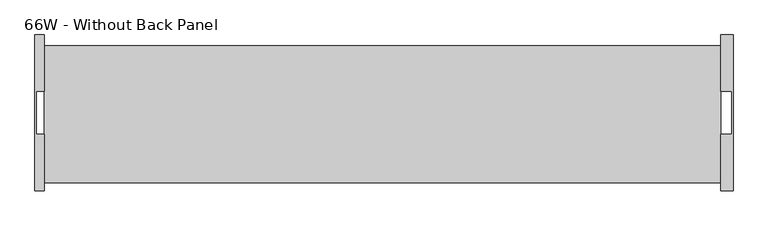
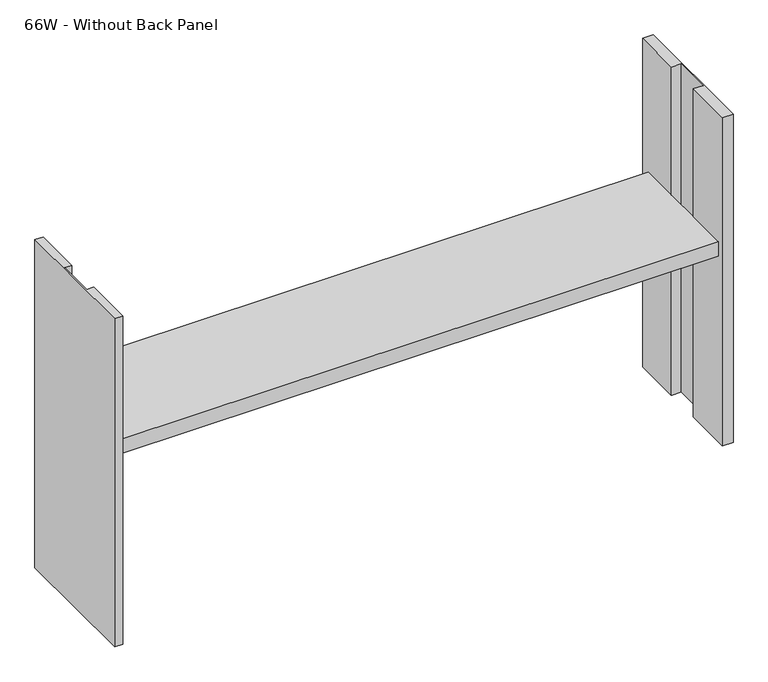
"""IFC4 building model written with IfcOpenShell, lengths in millimetres: furniture geometry, Steelcase - Kick Freestanding - Overhead Storage Cabinet With Shelves : 66W - Without Back Panel."""

import ifcopenshell
import ifcopenshell.guid

model = None  # the IFC model being written
_history = None  # IfcOwnerHistory: only IFC2X3 demands one
_inside = {}  # id of a spatial element -> (the spatial element, [elements in it])
_under = {}  # id of a project, library or spatial element -> (it, [spatial elements below it])
_declared = {}  # id of a project -> (the project, [libraries it declares])
_typed = {}  # id of a type object -> (the type object, [elements of that type])
_made_of = {}  # id of a material, layer set ... -> (it, [elements and type objects made of it])


def new_model(schema):
    """Start an empty IFC model of exactly this schema.

    Asked for "IFC4X3", IfcOpenShell would pick the latest addendum, in which some entities
    have other attributes; the version numbers below select the first issue.
    IFC2X3 requires an IfcOwnerHistory on every rooted entity: one is made here for all.
    """
    global model, _history
    if schema == "IFC4X3":
        model = ifcopenshell.file(schema_version=(4, 3, 0, 0))
    else:
        model = ifcopenshell.file(schema=schema)
    _inside.clear()
    _under.clear()
    _declared.clear()
    _typed.clear()
    _made_of.clear()
    _history = None
    if model.schema == "IFC2X3":
        org = make("IfcOrganization", Name="unknown")
        user = make(
            "IfcPersonAndOrganization",
            ThePerson=make("IfcPerson", FamilyName="unknown"),
            TheOrganization=org,
        )
        app = make(
            "IfcApplication",
            ApplicationDeveloper=org,
            Version="unknown",
            ApplicationFullName="unknown",
            ApplicationIdentifier="unknown",
        )
        _history = make(
            "IfcOwnerHistory",
            OwningUser=user,
            OwningApplication=app,
            ChangeAction="ADDED",
            CreationDate=0,
        )
    return model


def make(cls, **values):
    """One entity of the class cls with the attributes given. An attribute that is None is left unset."""
    return model.create_entity(
        cls, **{name: value for name, value in values.items() if value is not None}
    )


def rooted(cls, **values):
    """An entity with a GlobalId (a new one), such as an element, a storey or a relation."""
    return make(cls, GlobalId=ifcopenshell.guid.new(), OwnerHistory=_history, **values)


def si_unit(unit_type, name, prefix=None):
    """IfcSIUnit, for example si_unit("LENGTHUNIT", "METRE", prefix="MILLI")."""
    return make("IfcSIUnit", UnitType=unit_type, Prefix=prefix, Name=name)


def assignment(units):
    """IfcUnitAssignment: the units of a project."""
    return None if units is None else make("IfcUnitAssignment", Units=units)


def point(xyz):
    """IfcCartesianPoint."""
    return None if xyz is None else make("IfcCartesianPoint", Coordinates=xyz)


def direction(xyz):
    """IfcDirection."""
    return None if xyz is None else make("IfcDirection", DirectionRatios=xyz)


def frame(location, z_axis=None, x_axis=None):
    """IfcAxis2Placement3D, a coordinate frame: its origin and axes. An axis left out is left unset."""
    return make(
        "IfcAxis2Placement3D",
        Location=point(location),
        Axis=direction(z_axis),
        RefDirection=direction(x_axis),
    )


def origin():
    """The frame at (0, 0, 0) with its axes left unset."""
    return frame((0.0, 0.0, 0.0))


def place(relative_to, where):
    """IfcLocalPlacement: puts the frame where relative to a parent placement (None: the world)."""
    return make(
        "IfcLocalPlacement", PlacementRelTo=relative_to, RelativePlacement=where
    )


def context(
    kind, dimensions, precision=None, world=None, true_north=None, identifier=None
):
    """IfcGeometricRepresentationContext, for example the 3D "Model" context."""
    return make(
        "IfcGeometricRepresentationContext",
        ContextIdentifier=identifier,
        ContextType=kind,
        CoordinateSpaceDimension=dimensions,
        Precision=precision,
        WorldCoordinateSystem=world,
        TrueNorth=true_north,
    )


def project(units=None, contexts=None):
    """IfcProject with its units and contexts."""
    return rooted(
        "IfcProject",
        Name="project",
        RepresentationContexts=contexts,
        UnitsInContext=assignment(units),
    )


def spatial(cls, under=None, at=None, **own):
    """A site, building, storey or space (cls), placed at a placement, below another one or the project."""
    s = rooted(cls, ObjectPlacement=at, **own)
    if under is not None:
        _under.setdefault(under.id(), (under, []))[1].append(s)
    return s


def polyline(points):
    """IfcPolyline through the points."""
    return make("IfcPolyline", Points=[point(p) for p in points])


def outline(outer, holes=None, kind="AREA"):
    """IfcArbitraryClosedProfileDef: a profile drawn as a closed curve; with holes, ...WithVoids."""
    if holes is None:
        return make("IfcArbitraryClosedProfileDef", ProfileType=kind, OuterCurve=outer)
    return make(
        "IfcArbitraryProfileDefWithVoids",
        ProfileType=kind,
        OuterCurve=outer,
        InnerCurves=holes,
    )


def extrude(swept, where, along, depth):
    """IfcExtrudedAreaSolid: the profile swept, set in the frame where, extruded along a direction by depth."""
    return make(
        "IfcExtrudedAreaSolid",
        SweptArea=swept,
        Position=where,
        ExtrudedDirection=direction(along),
        Depth=depth,
    )


def shape(context_of_items, identifier, shape_type, items):
    """IfcShapeRepresentation: the items that make up one representation, for example the "Body"."""
    return make(
        "IfcShapeRepresentation",
        ContextOfItems=context_of_items,
        RepresentationIdentifier=identifier,
        RepresentationType=shape_type,
        Items=items,
    )


def source(mapping_origin, context_of_items, identifier, shape_type, items):
    """IfcRepresentationMap: a shape defined once, which mapped items show again and again."""
    return make(
        "IfcRepresentationMap",
        MappingOrigin=mapping_origin,
        MappedRepresentation=shape(context_of_items, identifier, shape_type, items),
    )


def transform(
    local_origin,
    x_axis=None,
    y_axis=None,
    z_axis=None,
    scale=None,
    scale2=None,
    scale3=None,
    uniform=True,
):
    """IfcCartesianTransformationOperator3D, or its non-uniform kind. x_axis, y_axis, z_axis: its Axis1, 2, 3."""
    if uniform:
        return make(
            "IfcCartesianTransformationOperator3D",
            Axis1=direction(x_axis),
            Axis2=direction(y_axis),
            LocalOrigin=point(local_origin),
            Scale=scale,
            Axis3=direction(z_axis),
        )
    return make(
        "IfcCartesianTransformationOperator3DnonUniform",
        Axis1=direction(x_axis),
        Axis2=direction(y_axis),
        LocalOrigin=point(local_origin),
        Scale=scale,
        Axis3=direction(z_axis),
        Scale2=scale2,
        Scale3=scale3,
    )


def mapped(mapping_source, mapping_target):
    """IfcMappedItem: shows the shape of a source again, moved by a transform."""
    return make(
        "IfcMappedItem", MappingSource=mapping_source, MappingTarget=mapping_target
    )


def made_of(thing, what):
    """Note that an element or type object is made of a material, layer set ...; save() writes the relation."""
    if what is not None:
        _made_of.setdefault(what.id(), (what, []))[1].append(thing)
    return thing


def element(
    cls,
    number,
    at=None,
    inside=None,
    cuts=None,
    type_object=None,
    material=None,
    context=None,
    identifier="Body",
    shape_type=None,
    held_by="IfcProductDefinitionShape",
    body=None,
    shapes=None,
    **own,
):
    """One element of the class cls, such as IfcWall. Its Tag is "e" and its number.

    at: its placement. inside: the storey or other place that contains it. cuts: it is an
    opening in that element (IfcRelVoidsElement). A single representation is given by context,
    identifier, shape_type and body (its items); several are given by shapes. held_by: the class
    of the entity that holds the representations. save() writes the other relations.
    """
    e = rooted(cls, Tag="e%d" % number, ObjectPlacement=at, **own)
    if body is not None:
        shapes = [shape(context, identifier, shape_type, body)]
    if shapes is not None:
        e.Representation = make(held_by, Representations=shapes)
    if inside is not None:
        _inside.setdefault(inside.id(), (inside, []))[1].append(e)
    if cuts is not None:
        rooted(
            "IfcRelVoidsElement", RelatingBuildingElement=cuts, RelatedOpeningElement=e
        )
    if type_object is not None:
        _typed.setdefault(type_object.id(), (type_object, []))[1].append(e)
    return made_of(e, material)


def aggregate(whole, parts):
    """IfcRelAggregates: a whole, such as a stair, and the parts it consists of."""
    return rooted("IfcRelAggregates", RelatingObject=whole, RelatedObjects=parts)


def save(model, path):
    """Write the relations noted so far, then the file.

    IfcRelAggregates (storeys below a building ...), IfcRelContainedInSpatialStructure (elements
    in a storey), IfcRelDefinesByType, IfcRelAssociatesMaterial and IfcRelDeclares: one each for
    every whole, place, type object, material and project.
    """
    for whole, parts in _under.values():
        aggregate(whole, parts)
    for where, things in _inside.values():
        rooted(
            "IfcRelContainedInSpatialStructure",
            RelatedElements=things,
            RelatingStructure=where,
        )
    for kind, things in _typed.values():
        rooted("IfcRelDefinesByType", RelatedObjects=things, RelatingType=kind)
    for what, things in _made_of.values():
        rooted("IfcRelAssociatesMaterial", RelatedObjects=things, RelatingMaterial=what)
    for by, libraries in _declared.values():
        rooted("IfcRelDeclares", RelatingContext=by, RelatedDefinitions=libraries)
    model.write(path)


def furniture_66w_without_back_panel_d47a46b5(model_context):
    return source(origin(), model_context, "Body", "SweptSolid", [
        extrude(outline(polyline([(1634.9138992, -53.9750008), (1634.9138992, -377.8257956), (34.7138992, -377.8257956), (34.7138992, -53.9750008), (1634.9138992, -53.9750008)])), frame((0.0, 0.0, 1018.9431215), z_axis=(0.0, 0.0, 1.0), x_axis=(1.0, 0.0, 0.0)), (0.0, 0.0, 1.0), 41.2749516),
        extrude(outline(polyline([(1634.9138992, -28.575), (1663.7, -28.575), (1663.7, -396.875), (1634.9138992, -396.875), (1634.9138992, -263.5265924), (1660.523793, -263.5265924), (1660.523793, -161.9265984), (1634.9138992, -161.9265984), (1634.9138992, -28.575)])), frame((0.0, 0.0, 495.068073), z_axis=(0.0, 0.0, 1.0), x_axis=(1.0, 0.0, 0.0)), (0.0, 0.0, 1.0), 927.1),
        extrude(outline(polyline([(34.7138992, -28.575), (34.7138992, -161.9250023), (15.8750004, -161.9250023), (15.8750004, -263.5249962), (34.7138992, -263.5249962), (34.7138992, -396.875), (12.7, -396.875), (12.7, -28.575), (34.7138992, -28.575)])), frame((0.0, 0.0, 495.068073), z_axis=(0.0, 0.0, 1.0), x_axis=(1.0, 0.0, 0.0)), (0.0, 0.0, 1.0), 927.1),
    ])


if __name__ == "__main__":
    model = new_model("IFC4")
    model_context = context("Model", 3, world=origin())
    ifc_project = project(units=[si_unit("LENGTHUNIT", "METRE", prefix="MILLI")], contexts=[model_context])
    site = spatial("IfcSite", under=ifc_project)
    building = spatial("IfcBuilding", under=site)
    placement = place(None, origin())
    furniture_66w_without_back_panel_shape = furniture_66w_without_back_panel_d47a46b5(model_context)
    element("IfcFurniture", 1, ObjectType="Steelcase - Kick Freestanding - Overhead Storage Cabinet With Shelves : 66W - Without Back Panel", at=placement, inside=building, context=model_context, shape_type="MappedRepresentation", body=[
        mapped(furniture_66w_without_back_panel_shape, transform((0.0, 0.0, 0.0), x_axis=(1.0, 0.0, 0.0), y_axis=(0.0, 1.0, 0.0), z_axis=(0.0, 0.0, 1.0))),
    ])
    save(model, "model.ifc")
